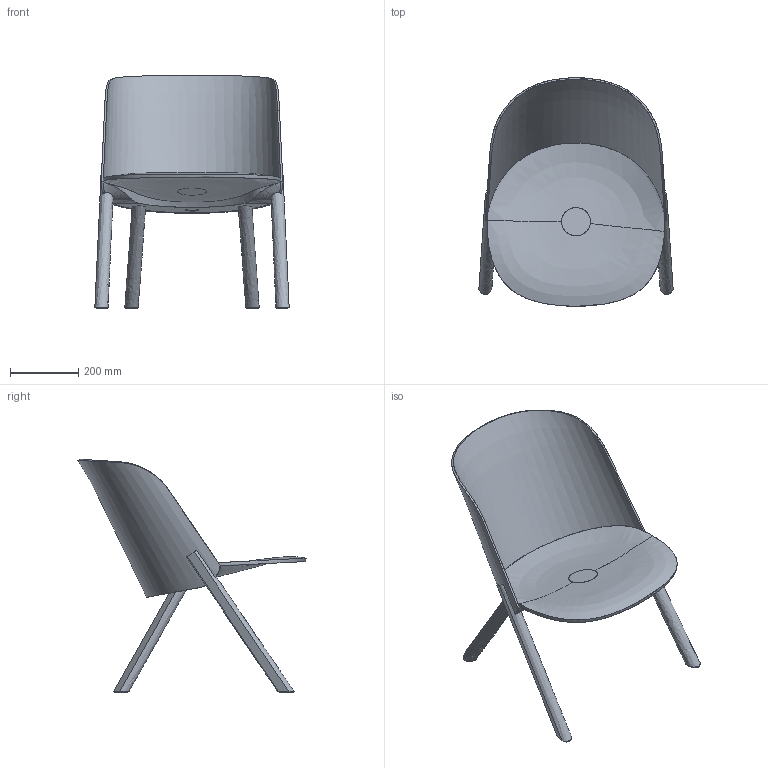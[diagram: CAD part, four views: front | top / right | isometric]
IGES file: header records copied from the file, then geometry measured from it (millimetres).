
Global section: file name: /Volumes/PROJECTS active/e15 T-shirt Low Seat/rhino/Finale Daten/130207_e15_T-Shirt_Low-Seat_clean_rev005.igs; native system: Rhinoceros ( Jan 30 2013 ); preprocessor: Trout Lake IGES 012 Jan 30 2013; date: 130207.150626; units: millimetre
Bounding box: 571.59 x 671.44 x 686.65 mm (x, y, z)
Surface area: 1446486.4 mm2 (no closed solid volume)
Topology: 0 solids, 0 shells, 59 faces, 1712 edges, 1706 vertices
Faces by surface type: bspline 59
